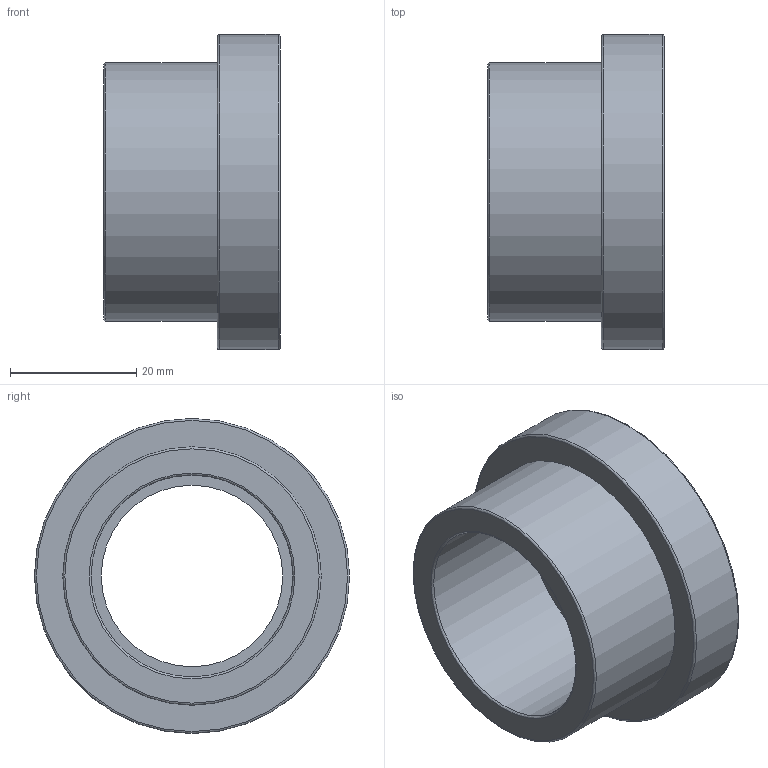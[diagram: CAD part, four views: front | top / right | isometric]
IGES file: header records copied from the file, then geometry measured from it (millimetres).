
Global section: file name: 055000032.ipt; native system: Autodesk Inventor 2015; preprocessor: unknown; author: KIM; date: 20171207.165705; units: millimetre
Bounding box: 28 x 50 x 50 mm (x, y, z)
Volume: 20602.7 mm3; surface area: 9855.5 mm2
Topology: 1 solids, 1 shells, 21 faces, 60 edges, 45 vertices
Faces by surface type: revolution 12, plane 6, cylinder 3
Full cylindrical faces by diameter (mm): 36.22 x1, 41 x1, 50 x1
